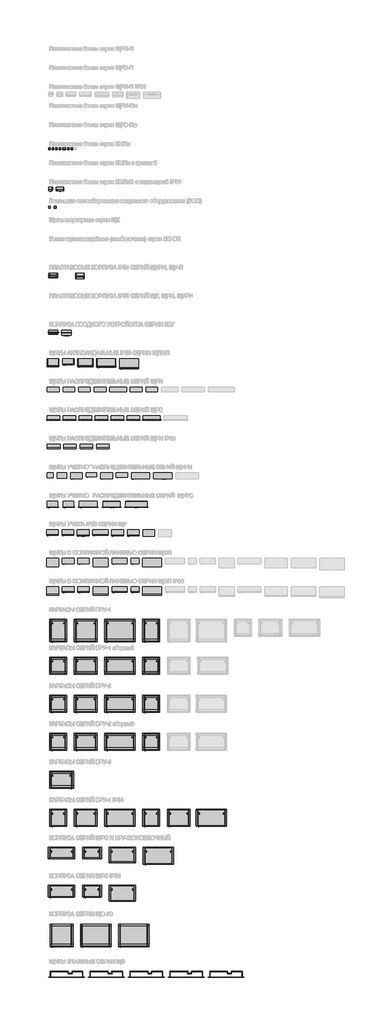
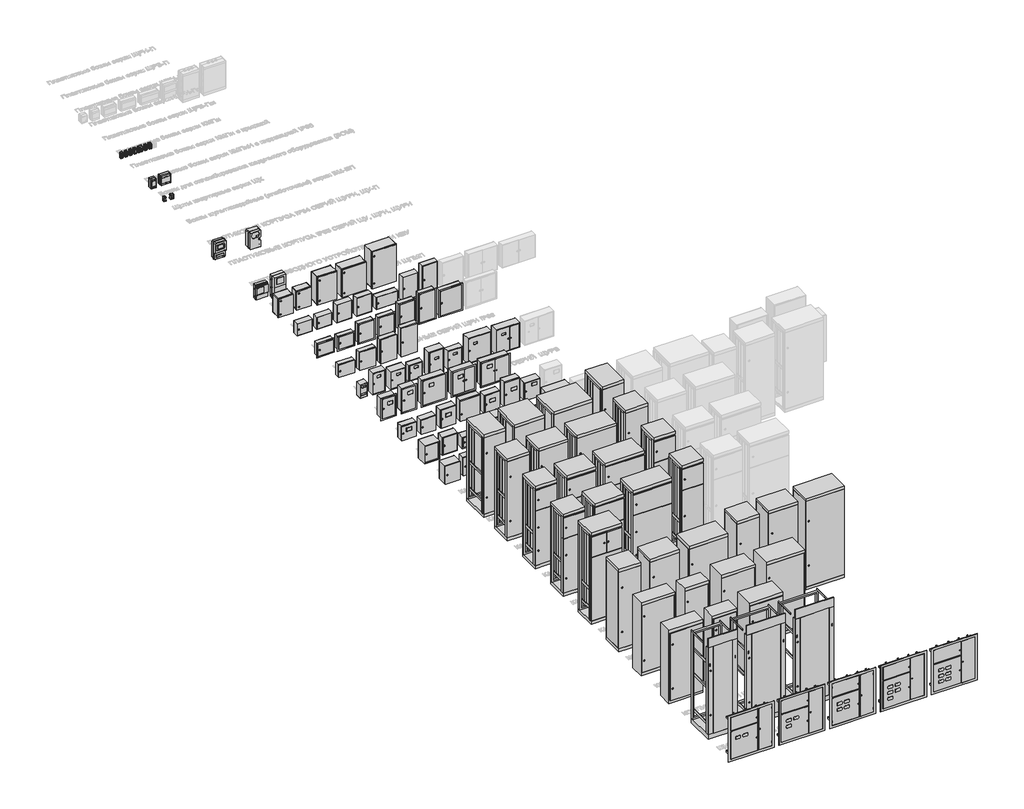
# One storey, part 1 of 25: 110 proxies.
"""IFC4 building model written with IfcOpenShell, lengths in millimetres."""

from ifc_helpers import new_model, si_unit, origin, place, context, project, spatial, transform, mapped, element, save
from components import electrical_equipment_f7069c38, electrical_equipment_20200724, electrical_equipment_cb070b25, electrical_equipment_a20aefed, electrical_equipment_1ee536cc, electrical_equipment_fd75258f, electrical_equipment_c49b061d, electrical_equipment_97246e37, electrical_equipment_1d521569, electrical_equipment_03d4b405, electrical_equipment_461fbd14, electrical_equipment_4e84e6ac, electrical_equipment_68182195, electrical_equipment_5be1c734, electrical_equipment_7cf6aeab, electrical_equipment_b1d8481f, electrical_equipment_1adb9329, electrical_equipment_51e5f88a, electrical_equipment_d572dc0e, electrical_equipment_7104ac90, electrical_equipment_e4f36392, electrical_equipment_c102921a, electrical_equipment_0156054a, electrical_equipment_1d639574, electrical_equipment_36c89b5d, electrical_equipment_8c9b66d6, electrical_equipment_7c259b81, electrical_equipment_dd45281c, electrical_equipment_cd438415, electrical_equipment_de6c3006, electrical_equipment_0470d7b7, electrical_equipment_4e9208c9, electrical_equipment_1f3abc2e, electrical_equipment_2e995482, electrical_equipment_75fcd377, electrical_equipment_2483adff, electrical_equipment_641f8d47, electrical_equipment_ec702200, electrical_equipment_acb14810, electrical_equipment_2a2de03e, electrical_equipment_830343ff, electrical_equipment_801ff232, electrical_equipment_8861a685, electrical_equipment_a2a301cd, electrical_equipment_84546ef7, electrical_equipment_aaa1e754, electrical_equipment_3a378906, electrical_equipment_e5c25cb4, electrical_equipment_f46c113c, electrical_equipment_338b28ef, electrical_equipment_934612fc, electrical_equipment_269ade26, electrical_equipment_854c8e54, electrical_equipment_25a24726, electrical_equipment_90699a79, electrical_equipment_55ce43f8, electrical_equipment_640d19c4, electrical_equipment_c7455dac, electrical_equipment_a689f8a6, electrical_equipment_2eaa364d, electrical_equipment_22b4aa98, electrical_equipment_89490b8c, electrical_equipment_c2dde389, electrical_equipment_6d69b4e2, electrical_equipment_0d639fd2, electrical_equipment_03c4f287, electrical_equipment_3c1566b2, electrical_equipment_bb6dac78, electrical_equipment_422eb44d, electrical_equipment_bb3ff358, electrical_equipment_5da544b6, electrical_equipment_15b1d89e, electrical_equipment_5376e35c, electrical_equipment_b12d2e99, electrical_equipment_6fd5ae59, electrical_equipment_fb14bdcf, electrical_equipment_00db5d83, electrical_equipment_27e2d6df, electrical_equipment_e2eaab87, electrical_equipment_1525a376, electrical_equipment_cdf7333c, electrical_equipment_f5411164, electrical_equipment_028161d4, electrical_equipment_5a98589f, electrical_equipment_d42505dd, electrical_equipment_290de99c, electrical_equipment_733eea28, electrical_equipment_8d153149, electrical_equipment_012ccbdc, electrical_equipment_6cbb61f2, electrical_equipment_671bf40c, electrical_equipment_eb1f5e51, electrical_equipment_db30c34b, electrical_equipment_5cb46348, electrical_equipment_fc4410ef, electrical_equipment_bd5a1a53, electrical_equipment_93f16f87

model = new_model("IFC4")

# Units and contexts
model_context = context("Model", 3, world=origin())
ifc_project = project(units=[si_unit("LENGTHUNIT", "METRE", prefix="MILLI")], contexts=[model_context])

# Site, building, storey
site = spatial("IfcSite", under=ifc_project)
building = spatial("IfcBuilding", under=site)
storey = spatial("IfcBuildingStorey", under=building, Name="Этаж 01", Elevation=0.0)

# Proxies
placement = place(None, origin())
electrical_equipment_shape = electrical_equipment_f7069c38(model_context)
element("IfcBuildingElementProxy", 1, Name="ВРУ-1 : ВРУ-1_1800х450х600", ObjectType="ВРУ-1 : ВРУ-1_1800х450х600", at=placement, inside=storey, context=model_context, shape_type="MappedRepresentation", body=[
    mapped(electrical_equipment_shape, transform((-18813.1211007, 3586.235284, 0.0), x_axis=(-1.0, 0.0, 0.0), y_axis=(0.0, -1.0, 0.0), z_axis=(0.0, 0.0, 1.0))),
])
electrical_equipment_2_shape = electrical_equipment_20200724(model_context)
element("IfcBuildingElementProxy", 2, Name="ВРУ-1 : ВРУ-1_2000х450х600", ObjectType="ВРУ-1 : ВРУ-1_2000х450х600", at=placement, inside=storey, context=model_context, shape_type="MappedRepresentation", body=[
    mapped(electrical_equipment_2_shape, transform((-16363.100758, 3586.235284, 0.0), x_axis=(-1.0, 0.0, 0.0), y_axis=(0.0, -1.0, 0.0), z_axis=(0.0, 0.0, 1.0))),
])
electrical_equipment_3_shape = electrical_equipment_cb070b25(model_context)
element("IfcBuildingElementProxy", 3, Name="ВРУ-1 : ВРУ-1_1800х600х600", ObjectType="ВРУ-1 : ВРУ-1_1800х600х600", at=placement, inside=storey, context=model_context, shape_type="MappedRepresentation", body=[
    mapped(electrical_equipment_3_shape, transform((-18088.1143198, 3586.235284, 0.0), x_axis=(-1.0, 0.0, 0.0), y_axis=(0.0, -1.0, 0.0), z_axis=(0.0, 0.0, 1.0))),
])
electrical_equipment_4_shape = electrical_equipment_a20aefed(model_context)
element("IfcBuildingElementProxy", 4, Name="ВРУ-1 : ВРУ-1_1800х800х600", ObjectType="ВРУ-1 : ВРУ-1_1800х800х600", at=placement, inside=storey, context=model_context, shape_type="MappedRepresentation", body=[
    mapped(electrical_equipment_4_shape, transform((-17188.1075389, 3586.235284, 0.0), x_axis=(-1.0, 0.0, 0.0), y_axis=(0.0, -1.0, 0.0), z_axis=(0.0, 0.0, 1.0))),
])
electrical_equipment_5_shape = electrical_equipment_1ee536cc(model_context)
element("IfcBuildingElementProxy", 5, Name="ВРУ-1_IP54 : ВРУ-1_1800х450х450", ObjectType="ВРУ-1_IP54 : ВРУ-1_1800х450х450", at=placement, inside=storey, context=model_context, shape_type="MappedRepresentation", body=[
    mapped(electrical_equipment_5_shape, transform((-18813.1211007, -1413.764716, 0.0), x_axis=(-1.0, 0.0, 0.0), y_axis=(0.0, -1.0, 0.0), z_axis=(0.0, 0.0, 1.0))),
])
electrical_equipment_6_shape = electrical_equipment_fd75258f(model_context)
element("IfcBuildingElementProxy", 6, Name="ВРУ-1_IP54 : ВРУ-1_1800х600х450", ObjectType="ВРУ-1_IP54 : ВРУ-1_1800х600х450", at=placement, inside=storey, context=model_context, shape_type="MappedRepresentation", body=[
    mapped(electrical_equipment_6_shape, transform((-18088.1143198, -1413.764716, 0.0), x_axis=(-1.0, 0.0, 0.0), y_axis=(0.0, -1.0, 0.0), z_axis=(0.0, 0.0, 1.0))),
])
electrical_equipment_7_shape = electrical_equipment_c49b061d(model_context)
element("IfcBuildingElementProxy", 7, Name="ВРУ-1_IP54 : ВРУ-1_1800х800х450", ObjectType="ВРУ-1_IP54 : ВРУ-1_1800х800х450", at=placement, inside=storey, context=model_context, shape_type="MappedRepresentation", body=[
    mapped(electrical_equipment_7_shape, transform((-17188.1075389, -1413.764716, 0.0), x_axis=(-1.0, 0.0, 0.0), y_axis=(0.0, -1.0, 0.0), z_axis=(0.0, 0.0, 1.0))),
])
electrical_equipment_8_shape = electrical_equipment_97246e37(model_context)
element("IfcBuildingElementProxy", 8, Name="ВРУ-1_IP54 : ВРУ-1_2000х450х450", ObjectType="ВРУ-1_IP54 : ВРУ-1_2000х450х450", at=placement, inside=storey, context=model_context, shape_type="MappedRepresentation", body=[
    mapped(electrical_equipment_8_shape, transform((-16363.100758, -1413.764716, 0.0), x_axis=(-1.0, 0.0, 0.0), y_axis=(0.0, -1.0, 0.0), z_axis=(0.0, 0.0, 1.0))),
])
electrical_equipment_9_shape = electrical_equipment_1d521569(model_context)
element("IfcBuildingElementProxy", 9, Name="ВРУ-1_IP54 : ВРУ-1_2000х600х450", ObjectType="ВРУ-1_IP54 : ВРУ-1_2000х600х450", at=placement, inside=storey, context=model_context, shape_type="MappedRepresentation", body=[
    mapped(electrical_equipment_9_shape, transform((-15638.0939771, -1413.764716, 0.0), x_axis=(-1.0, 0.0, 0.0), y_axis=(0.0, -1.0, 0.0), z_axis=(0.0, 0.0, 1.0))),
])
electrical_equipment_10_shape = electrical_equipment_03d4b405(model_context)
element("IfcBuildingElementProxy", 10, Name="ВРУ-1_IP54 : ВРУ-1_2000х800х450", ObjectType="ВРУ-1_IP54 : ВРУ-1_2000х800х450", at=placement, inside=storey, context=model_context, shape_type="MappedRepresentation", body=[
    mapped(electrical_equipment_10_shape, transform((-14777.2854233, -1413.764716, 0.0), x_axis=(-1.0, 0.0, 0.0), y_axis=(0.0, -1.0, 0.0), z_axis=(0.0, 0.0, 1.0))),
])
electrical_equipment_11_shape = electrical_equipment_461fbd14(model_context)
element("IfcBuildingElementProxy", 11, Name="ВРУ-1_сборный : ВРУ-1_1800х450х450", ObjectType="ВРУ-1_сборный : ВРУ-1_1800х450х450", at=placement, inside=storey, context=model_context, shape_type="MappedRepresentation", body=[
    mapped(electrical_equipment_11_shape, transform((-18813.1211007, 2586.235284, 0.0), x_axis=(-1.0, 0.0, 0.0), y_axis=(0.0, -1.0, 0.0), z_axis=(0.0, 0.0, 1.0))),
])
electrical_equipment_12_shape = electrical_equipment_4e84e6ac(model_context)
element("IfcBuildingElementProxy", 12, Name="ВРУ-1_сборный : ВРУ-1_1800х600х450", ObjectType="ВРУ-1_сборный : ВРУ-1_1800х600х450", at=placement, inside=storey, context=model_context, shape_type="MappedRepresentation", body=[
    mapped(electrical_equipment_12_shape, transform((-18088.1143198, 2586.235284, 0.0), x_axis=(-1.0, 0.0, 0.0), y_axis=(0.0, -1.0, 0.0), z_axis=(0.0, 0.0, 1.0))),
])
electrical_equipment_13_shape = electrical_equipment_68182195(model_context)
element("IfcBuildingElementProxy", 13, Name="ВРУ-1_сборный : ВРУ-1_2000х450х450", ObjectType="ВРУ-1_сборный : ВРУ-1_2000х450х450", at=placement, inside=storey, context=model_context, shape_type="MappedRepresentation", body=[
    mapped(electrical_equipment_13_shape, transform((-16363.100758, 2586.235284, 0.0), x_axis=(-1.0, 0.0, 0.0), y_axis=(0.0, -1.0, 0.0), z_axis=(0.0, 0.0, 1.0))),
])
electrical_equipment_14_shape = electrical_equipment_5be1c734(model_context)
element("IfcBuildingElementProxy", 14, Name="ВРУ-1_сборный : ВРУ-1_1800х800х450", ObjectType="ВРУ-1_сборный : ВРУ-1_1800х800х450", at=placement, inside=storey, context=model_context, shape_type="MappedRepresentation", body=[
    mapped(electrical_equipment_14_shape, transform((-17188.1075389, 2586.235284, 0.0), x_axis=(-1.0, 0.0, 0.0), y_axis=(0.0, -1.0, 0.0), z_axis=(0.0, 0.0, 1.0))),
])
electrical_equipment_15_shape = electrical_equipment_7cf6aeab(model_context)
element("IfcBuildingElementProxy", 15, Name="ВРУ-2 : ВРУ-2_1800х450х450", ObjectType="ВРУ-2 : ВРУ-2_1800х450х450", at=placement, inside=storey, context=model_context, shape_type="MappedRepresentation", body=[
    mapped(electrical_equipment_15_shape, transform((-18813.1211007, 1586.235284, 0.0), x_axis=(-1.0, 0.0, 0.0), y_axis=(0.0, -1.0, 0.0), z_axis=(0.0, 0.0, 1.0))),
])
electrical_equipment_16_shape = electrical_equipment_b1d8481f(model_context)
element("IfcBuildingElementProxy", 16, Name="ВРУ-2 : ВРУ-2_1800х600х450", ObjectType="ВРУ-2 : ВРУ-2_1800х600х450", at=placement, inside=storey, context=model_context, shape_type="MappedRepresentation", body=[
    mapped(electrical_equipment_16_shape, transform((-18088.1143198, 1586.251492, 0.0), x_axis=(-1.0, 0.0, 0.0), y_axis=(0.0, -1.0, 0.0), z_axis=(0.0, 0.0, 1.0))),
])
electrical_equipment_17_shape = electrical_equipment_1adb9329(model_context)
element("IfcBuildingElementProxy", 17, Name="ВРУ-2 : ВРУ-2_2000х450х450", ObjectType="ВРУ-2 : ВРУ-2_2000х450х450", at=placement, inside=storey, context=model_context, shape_type="MappedRepresentation", body=[
    mapped(electrical_equipment_17_shape, transform((-16363.100758, 1586.251492, 0.0), x_axis=(-1.0, 0.0, 0.0), y_axis=(0.0, -1.0, 0.0), z_axis=(0.0, 0.0, 1.0))),
])
electrical_equipment_18_shape = electrical_equipment_51e5f88a(model_context)
element("IfcBuildingElementProxy", 18, Name="ВРУ-2 : ВРУ-2_1800х800х450", ObjectType="ВРУ-2 : ВРУ-2_1800х800х450", at=placement, inside=storey, context=model_context, shape_type="MappedRepresentation", body=[
    mapped(electrical_equipment_18_shape, transform((-17188.1075389, 1586.251492, 0.0), x_axis=(-1.0, 0.0, 0.0), y_axis=(0.0, -1.0, 0.0), z_axis=(0.0, 0.0, 1.0))),
])
element("IfcBuildingElementProxy", 19, Name="ВРУ-2_сборный : ВРУ-2 сборный_1800х450х450", ObjectType="ВРУ-2_сборный : ВРУ-2 сборный_1800х450х450", at=placement, inside=storey, context=model_context, shape_type="MappedRepresentation", body=[
    mapped(electrical_equipment_15_shape, transform((-18813.1211007, 586.235284, 0.0), x_axis=(-1.0, 0.0, 0.0), y_axis=(0.0, -1.0, 0.0), z_axis=(0.0, 0.0, 1.0))),
])
element("IfcBuildingElementProxy", 20, Name="ВРУ-2_сборный : ВРУ-2 сборный_1800х600х450", ObjectType="ВРУ-2_сборный : ВРУ-2 сборный_1800х600х450", at=placement, inside=storey, context=model_context, shape_type="MappedRepresentation", body=[
    mapped(electrical_equipment_16_shape, transform((-18088.1143198, 586.235284, 0.0), x_axis=(-1.0, 0.0, 0.0), y_axis=(0.0, -1.0, 0.0), z_axis=(0.0, 0.0, 1.0))),
])
element("IfcBuildingElementProxy", 21, Name="ВРУ-2_сборный : ВРУ-2 сборный_2000х450х450", ObjectType="ВРУ-2_сборный : ВРУ-2 сборный_2000х450х450", at=placement, inside=storey, context=model_context, shape_type="MappedRepresentation", body=[
    mapped(electrical_equipment_17_shape, transform((-16363.100758, 586.235284, 0.0), x_axis=(-1.0, 0.0, 0.0), y_axis=(0.0, -1.0, 0.0), z_axis=(0.0, 0.0, 1.0))),
])
element("IfcBuildingElementProxy", 22, Name="ВРУ-2_сборный : ВРУ-2 сборный_1800х800х450", ObjectType="ВРУ-2_сборный : ВРУ-2 сборный_1800х800х450", at=placement, inside=storey, context=model_context, shape_type="MappedRepresentation", body=[
    mapped(electrical_equipment_18_shape, transform((-17188.1075389, 586.235284, 0.0), x_axis=(-1.0, 0.0, 0.0), y_axis=(0.0, -1.0, 0.0), z_axis=(0.0, 0.0, 1.0))),
])
electrical_equipment_19_shape = electrical_equipment_d572dc0e(model_context)
element("IfcBuildingElementProxy", 23, Name="ВРУ-3 : ВРУ-3_2000х630х450", ObjectType="ВРУ-3 : ВРУ-3_2000х630х450", at=placement, inside=storey, context=model_context, shape_type="MappedRepresentation", body=[
    mapped(electrical_equipment_19_shape, transform((-18723.1211007, -413.764716, 0.0), x_axis=(-1.0, 0.0, 0.0), y_axis=(0.0, -1.0, 0.0), z_axis=(0.0, 0.0, 1.0))),
])
electrical_equipment_20_shape = electrical_equipment_7104ac90(model_context)
element("IfcBuildingElementProxy", 24, Name="БОМ-2_3 : БОМ 2/3", ObjectType="БОМ-2_3 : БОМ 2/3", at=placement, inside=storey, context=model_context, shape_type="MappedRepresentation", body=[
    mapped(electrical_equipment_20_shape, transform((-18892.6755004, 14436.235284, 0.0), x_axis=(-1.0, 0.0, 0.0), y_axis=(0.0, -1.0, 0.0), z_axis=(0.0, 0.0, 1.0))),
])
electrical_equipment_21_shape = electrical_equipment_e4f36392(model_context)
element("IfcBuildingElementProxy", 25, Name="БОМ-1_2 : БОМ 1/2", ObjectType="БОМ-1_2 : БОМ 1/2", at=placement, inside=storey, context=model_context, shape_type="MappedRepresentation", body=[
    mapped(electrical_equipment_21_shape, transform((-19042.6755004, 14436.235284, 0.0), x_axis=(-1.0, 0.0, 0.0), y_axis=(0.0, -1.0, 0.0), z_axis=(0.0, 0.0, 1.0))),
])
electrical_equipment_22_shape = electrical_equipment_c102921a(model_context)
element("IfcBuildingElementProxy", 26, Name="ЩМП : ЩМП-1-0_395х310х220", ObjectType="ЩМП : ЩМП-1-0_395х310х220", at=placement, inside=storey, context=model_context, shape_type="MappedRepresentation", body=[
    mapped(electrical_equipment_22_shape, transform((-18960.3755004, 5186.235284, 0.0), x_axis=(-1.0, 0.0, 0.0), y_axis=(0.0, -1.0, 0.0), z_axis=(0.0, 0.0, 1.0))),
])
electrical_equipment_23_shape = electrical_equipment_0156054a(model_context)
element("IfcBuildingElementProxy", 27, Name="ЩМП : ЩМП-1-1_395х310х150", ObjectType="ЩМП : ЩМП-1-1_395х310х150", at=placement, inside=storey, context=model_context, shape_type="MappedRepresentation", body=[
    mapped(electrical_equipment_23_shape, transform((-18550.3755004, 5186.235284, 0.0), x_axis=(-1.0, 0.0, 0.0), y_axis=(0.0, -1.0, 0.0), z_axis=(0.0, 0.0, 1.0))),
])
electrical_equipment_24_shape = electrical_equipment_1d639574(model_context)
element("IfcBuildingElementProxy", 28, Name="ЩМП : ЩМП-2.3.1-0_250х300х150", ObjectType="ЩМП : ЩМП-2.3.1-0_250х300х150", at=placement, inside=storey, context=model_context, shape_type="MappedRepresentation", body=[
    mapped(electrical_equipment_24_shape, transform((-18145.3755004, 5186.235284, 0.0), x_axis=(-1.0, 0.0, 0.0), y_axis=(0.0, -1.0, 0.0), z_axis=(0.0, 0.0, 1.0))),
])
electrical_equipment_25_shape = electrical_equipment_36c89b5d(model_context)
element("IfcBuildingElementProxy", 29, Name="ЩМП : ЩМП-2-0_500х400х220", ObjectType="ЩМП : ЩМП-2-0_500х400х220", at=placement, inside=storey, context=model_context, shape_type="MappedRepresentation", body=[
    mapped(electrical_equipment_25_shape, transform((-17695.3755004, 5186.235284, 0.0), x_axis=(-1.0, 0.0, 0.0), y_axis=(0.0, -1.0, 0.0), z_axis=(0.0, 0.0, 1.0))),
])
electrical_equipment_26_shape = electrical_equipment_8c9b66d6(model_context)
element("IfcBuildingElementProxy", 30, Name="ЩМП : ЩМП-2-1_500х400х150", ObjectType="ЩМП : ЩМП-2-1_500х400х150", at=placement, inside=storey, context=model_context, shape_type="MappedRepresentation", body=[
    mapped(electrical_equipment_26_shape, transform((-17195.3755004, 5186.235284, 0.0), x_axis=(-1.0, 0.0, 0.0), y_axis=(0.0, -1.0, 0.0), z_axis=(0.0, 0.0, 1.0))),
])
electrical_equipment_27_shape = electrical_equipment_7c259b81(model_context)
element("IfcBuildingElementProxy", 31, Name="ЩМП : ЩМП-3.2.1-0_300х210х150", ObjectType="ЩМП : ЩМП-3.2.1-0_300х210х150", at=placement, inside=storey, context=model_context, shape_type="MappedRepresentation", body=[
    mapped(electrical_equipment_27_shape, transform((-16790.3755004, 5186.235284, 0.0), x_axis=(-1.0, 0.0, 0.0), y_axis=(0.0, -1.0, 0.0), z_axis=(0.0, 0.0, 1.0))),
])
electrical_equipment_28_shape = electrical_equipment_dd45281c(model_context)
element("IfcBuildingElementProxy", 32, Name="ЩМП : ЩМП-3-0_650х500х220", ObjectType="ЩМП : ЩМП-3-0_650х500х220", at=placement, inside=storey, context=model_context, shape_type="MappedRepresentation", body=[
    mapped(electrical_equipment_28_shape, transform((-16335.3755004, 5186.235284, 0.0), x_axis=(-1.0, 0.0, 0.0), y_axis=(0.0, -1.0, 0.0), z_axis=(0.0, 0.0, 1.0))),
])
electrical_equipment_29_shape = electrical_equipment_cd438415(model_context)
element("IfcBuildingElementProxy", 33, Name="ЩМП_IP65 : ЩМП-1-0_395х310х220", ObjectType="ЩМП_IP65 : ЩМП-1-0_395х310х220", at=placement, inside=storey, context=model_context, shape_type="MappedRepresentation", body=[
    mapped(electrical_equipment_29_shape, transform((-18960.3755004, 4436.235284, 0.0), x_axis=(-1.0, 0.0, 0.0), y_axis=(0.0, -1.0, 0.0), z_axis=(0.0, 0.0, 1.0))),
])
electrical_equipment_30_shape = electrical_equipment_de6c3006(model_context)
element("IfcBuildingElementProxy", 34, Name="ЩМП_IP65 : ЩМП-1-1_395х310х150", ObjectType="ЩМП_IP65 : ЩМП-1-1_395х310х150", at=placement, inside=storey, context=model_context, shape_type="MappedRepresentation", body=[
    mapped(electrical_equipment_30_shape, transform((-18550.3755004, 4436.235284, 0.0), x_axis=(-1.0, 0.0, 0.0), y_axis=(0.0, -1.0, 0.0), z_axis=(0.0, 0.0, 1.0))),
])
electrical_equipment_31_shape = electrical_equipment_0470d7b7(model_context)
element("IfcBuildingElementProxy", 35, Name="ЩМП_IP65 : ЩМП-2.3.1-0_250х300х150", ObjectType="ЩМП_IP65 : ЩМП-2.3.1-0_250х300х150", at=placement, inside=storey, context=model_context, shape_type="MappedRepresentation", body=[
    mapped(electrical_equipment_31_shape, transform((-18145.3755004, 4436.235284, 0.0), x_axis=(-1.0, 0.0, 0.0), y_axis=(0.0, -1.0, 0.0), z_axis=(0.0, 0.0, 1.0))),
])
electrical_equipment_32_shape = electrical_equipment_4e9208c9(model_context)
element("IfcBuildingElementProxy", 36, Name="ЩМП_IP65 : ЩМП-2-0_500х400х220", ObjectType="ЩМП_IP65 : ЩМП-2-0_500х400х220", at=placement, inside=storey, context=model_context, shape_type="MappedRepresentation", body=[
    mapped(electrical_equipment_32_shape, transform((-17695.3755004, 4436.235284, 0.0), x_axis=(-1.0, 0.0, 0.0), y_axis=(0.0, -1.0, 0.0), z_axis=(0.0, 0.0, 1.0))),
])
electrical_equipment_33_shape = electrical_equipment_1f3abc2e(model_context)
element("IfcBuildingElementProxy", 37, Name="ЩМП_IP65 : ЩМП-2-1_500х400х150", ObjectType="ЩМП_IP65 : ЩМП-2-1_500х400х150", at=placement, inside=storey, context=model_context, shape_type="MappedRepresentation", body=[
    mapped(electrical_equipment_33_shape, transform((-17195.3755004, 4436.235284, 0.0), x_axis=(-1.0, 0.0, 0.0), y_axis=(0.0, -1.0, 0.0), z_axis=(0.0, 0.0, 1.0))),
])
electrical_equipment_34_shape = electrical_equipment_2e995482(model_context)
element("IfcBuildingElementProxy", 38, Name="ЩМП_IP65 : ЩМП-3.2.1-0_300х210х150", ObjectType="ЩМП_IP65 : ЩМП-3.2.1-0_300х210х150", at=placement, inside=storey, context=model_context, shape_type="MappedRepresentation", body=[
    mapped(electrical_equipment_34_shape, transform((-16790.3755004, 4436.235284, 0.0), x_axis=(-1.0, 0.0, 0.0), y_axis=(0.0, -1.0, 0.0), z_axis=(0.0, 0.0, 1.0))),
])
electrical_equipment_35_shape = electrical_equipment_75fcd377(model_context)
element("IfcBuildingElementProxy", 39, Name="ЩМП_IP65 : ЩМП-3-0_650х500х220", ObjectType="ЩМП_IP65 : ЩМП-3-0_650х500х220", at=placement, inside=storey, context=model_context, shape_type="MappedRepresentation", body=[
    mapped(electrical_equipment_35_shape, transform((-16335.3755004, 4436.235284, 0.0), x_axis=(-1.0, 0.0, 0.0), y_axis=(0.0, -1.0, 0.0), z_axis=(0.0, 0.0, 1.0))),
])
electrical_equipment_36_shape = electrical_equipment_2483adff(model_context)
element("IfcBuildingElementProxy", 40, Name="ЩО-70 : ЩО-70_2200х600х600", ObjectType="ЩО-70 : ЩО-70_2200х600х600", at=placement, inside=storey, context=model_context, shape_type="MappedRepresentation", body=[
    mapped(electrical_equipment_36_shape, transform((-18723.1211007, -4431.3615443, 0.0), x_axis=(-1.0, 0.0, 0.0), y_axis=(0.0, -1.0, 0.0), z_axis=(0.0, 0.0, 1.0))),
])
electrical_equipment_37_shape = electrical_equipment_641f8d47(model_context)
element("IfcBuildingElementProxy", 41, Name="ЩО-70 : ЩО-70_2200х800х600", ObjectType="ЩО-70 : ЩО-70_2200х800х600", at=placement, inside=storey, context=model_context, shape_type="MappedRepresentation", body=[
    mapped(electrical_equipment_37_shape, transform((-17823.1211007, -4431.3615443, 0.0), x_axis=(-1.0, 0.0, 0.0), y_axis=(0.0, -1.0, 0.0), z_axis=(0.0, 0.0, 1.0))),
])
element("IfcBuildingElementProxy", 42, Name="ЩО-70 : ЩО-70_2200х800х600 в обрешетке", ObjectType="ЩО-70 : ЩО-70_2200х800х600 в обрешетке", at=placement, inside=storey, context=model_context, shape_type="MappedRepresentation", body=[
    mapped(electrical_equipment_37_shape, transform((-16823.1211007, -4431.3615443, 0.0), x_axis=(-1.0, 0.0, 0.0), y_axis=(0.0, -1.0, 0.0), z_axis=(0.0, 0.0, 1.0))),
])
electrical_equipment_38_shape = electrical_equipment_ec702200(model_context)
element("IfcBuildingElementProxy", 43, Name="ЩПМП_IP55 : ЩПМП-1-1", ObjectType="ЩПМП_IP55 : ЩПМП-1-1", at=placement, inside=storey, context=model_context, shape_type="MappedRepresentation", body=[
    mapped(electrical_equipment_38_shape, transform((-18545.3755004, 10436.235284, 0.0), x_axis=(-1.0, 0.0, 0.0), y_axis=(0.0, -1.0, 0.0), z_axis=(0.0, 0.0, 1.0))),
])
electrical_equipment_39_shape = electrical_equipment_acb14810(model_context)
element("IfcBuildingElementProxy", 44, Name="ЩПМП_IP55 : ЩПМП-1-0", ObjectType="ЩПМП_IP55 : ЩПМП-1-0", at=placement, inside=storey, context=model_context, shape_type="MappedRepresentation", body=[
    mapped(electrical_equipment_39_shape, transform((-18945.3755004, 10436.235284, 0.0), x_axis=(-1.0, 0.0, 0.0), y_axis=(0.0, -1.0, 0.0), z_axis=(0.0, 0.0, 1.0))),
])
electrical_equipment_40_shape = electrical_equipment_2a2de03e(model_context)
element("IfcBuildingElementProxy", 45, Name="ЩПМП_IP55 : ЩПМП-2-0", ObjectType="ЩПМП_IP55 : ЩПМП-2-0", at=placement, inside=storey, context=model_context, shape_type="MappedRepresentation", body=[
    mapped(electrical_equipment_40_shape, transform((-18095.3755004, 10436.235284, 0.0), x_axis=(-1.0, 0.0, 0.0), y_axis=(0.0, -1.0, 0.0), z_axis=(0.0, 0.0, 1.0))),
])
electrical_equipment_41_shape = electrical_equipment_830343ff(model_context)
element("IfcBuildingElementProxy", 46, Name="ЩПМП_IP55 : ЩПМП-3-0", ObjectType="ЩПМП_IP55 : ЩПМП-3-0", at=placement, inside=storey, context=model_context, shape_type="MappedRepresentation", body=[
    mapped(electrical_equipment_41_shape, transform((-17545.3755004, 10436.235284, 0.0), x_axis=(-1.0, 0.0, 0.0), y_axis=(0.0, -1.0, 0.0), z_axis=(0.0, 0.0, 1.0))),
])
electrical_equipment_42_shape = electrical_equipment_801ff232(model_context)
element("IfcBuildingElementProxy", 47, Name="ЩПМП_IP55 : ЩПМП-4-0", ObjectType="ЩПМП_IP55 : ЩПМП-4-0", at=placement, inside=storey, context=model_context, shape_type="MappedRepresentation", body=[
    mapped(electrical_equipment_42_shape, transform((-16945.3755004, 10436.235284, 0.0), x_axis=(-1.0, 0.0, 0.0), y_axis=(0.0, -1.0, 0.0), z_axis=(0.0, 0.0, 1.0))),
])
electrical_equipment_43_shape = electrical_equipment_8861a685(model_context)
element("IfcBuildingElementProxy", 48, Name="ЩРВ_9-12 : ЩРВ-09", ObjectType="ЩРВ_9-12 : ЩРВ-09", at=placement, inside=storey, context=model_context, shape_type="MappedRepresentation", body=[
    mapped(electrical_equipment_43_shape, transform((-18935.3755004, 8936.235284, 0.0), x_axis=(-1.0, 0.0, 0.0), y_axis=(0.0, -1.0, 0.0), z_axis=(0.0, 0.0, 1.0))),
])
element("IfcBuildingElementProxy", 49, Name="ЩРВ_9-12 : ЩРВ-12", ObjectType="ЩРВ_9-12 : ЩРВ-12", at=placement, inside=storey, context=model_context, shape_type="MappedRepresentation", body=[
    mapped(electrical_equipment_43_shape, transform((-18515.3755004, 8936.235284, 0.0), x_axis=(-1.0, 0.0, 0.0), y_axis=(0.0, -1.0, 0.0), z_axis=(0.0, 0.0, 1.0))),
])
electrical_equipment_44_shape = electrical_equipment_a2a301cd(model_context)
element("IfcBuildingElementProxy", 50, Name="ЩРВ_18-24 : ЩРВ-18", ObjectType="ЩРВ_18-24 : ЩРВ-18", at=placement, inside=storey, context=model_context, shape_type="MappedRepresentation", body=[
    mapped(electrical_equipment_44_shape, transform((-18095.3755004, 8936.235284, 0.0), x_axis=(-1.0, 0.0, 0.0), y_axis=(0.0, -1.0, 0.0), z_axis=(0.0, 0.0, 1.0))),
])
element("IfcBuildingElementProxy", 51, Name="ЩРВ_18-24 : ЩРВ-24", ObjectType="ЩРВ_18-24 : ЩРВ-24", at=placement, inside=storey, context=model_context, shape_type="MappedRepresentation", body=[
    mapped(electrical_equipment_44_shape, transform((-17675.3755004, 8936.235284, 0.0), x_axis=(-1.0, 0.0, 0.0), y_axis=(0.0, -1.0, 0.0), z_axis=(0.0, 0.0, 1.0))),
])
electrical_equipment_45_shape = electrical_equipment_84546ef7(model_context)
element("IfcBuildingElementProxy", 52, Name="ЩРВ_36 : ЩРВ-36", ObjectType="ЩРВ_36 : ЩРВ-36", at=placement, inside=storey, context=model_context, shape_type="MappedRepresentation", body=[
    mapped(electrical_equipment_45_shape, transform((-17255.3755004, 8936.235284, 0.0), x_axis=(-1.0, 0.0, 0.0), y_axis=(0.0, -1.0, 0.0), z_axis=(0.0, 0.0, 1.0))),
])
electrical_equipment_46_shape = electrical_equipment_aaa1e754(model_context)
element("IfcBuildingElementProxy", 53, Name="ЩРВ_48 : ЩРВ-48", ObjectType="ЩРВ_48 : ЩРВ-48", at=placement, inside=storey, context=model_context, shape_type="MappedRepresentation", body=[
    mapped(electrical_equipment_46_shape, transform((-16835.3755004, 8936.235284, 0.0), x_axis=(-1.0, 0.0, 0.0), y_axis=(0.0, -1.0, 0.0), z_axis=(0.0, 0.0, 1.0))),
])
electrical_equipment_47_shape = electrical_equipment_3a378906(model_context)
element("IfcBuildingElementProxy", 54, Name="ЩРВ_54 : ЩРВ-54", ObjectType="ЩРВ_54 : ЩРВ-54", at=placement, inside=storey, context=model_context, shape_type="MappedRepresentation", body=[
    mapped(electrical_equipment_47_shape, transform((-16350.3755004, 8936.235284, 0.0), x_axis=(-1.0, 0.0, 0.0), y_axis=(0.0, -1.0, 0.0), z_axis=(0.0, 0.0, 1.0))),
])
electrical_equipment_48_shape = electrical_equipment_e5c25cb4(model_context)
element("IfcBuildingElementProxy", 55, Name="КМПнИ-8 : КМПнИ-8", ObjectType="КМПнИ-8 : КМПнИ-8", at=placement, inside=storey, context=model_context, shape_type="MappedRepresentation", body=[
    mapped(electrical_equipment_48_shape, transform((-18762.6755004, 14936.235284, 0.0), x_axis=(-1.0, 0.0, 0.0), y_axis=(0.0, -1.0, 0.0), z_axis=(0.0, 0.0, 1.0))),
])
electrical_equipment_49_shape = electrical_equipment_f46c113c(model_context)
element("IfcBuildingElementProxy", 56, Name="КМПнИ-4 : КМПнИ-4", ObjectType="КМПнИ-4 : КМПнИ-4", at=placement, inside=storey, context=model_context, shape_type="MappedRepresentation", body=[
    mapped(electrical_equipment_49_shape, transform((-19012.6755004, 14936.235284, 0.0), x_axis=(-1.0, 0.0, 0.0), y_axis=(0.0, -1.0, 0.0), z_axis=(0.0, 0.0, 1.0))),
])
electrical_equipment_50_shape = electrical_equipment_338b28ef(model_context)
element("IfcBuildingElementProxy", 57, Name="КМПн-1_4 : КМПн-1/4", ObjectType="КМПн-1_4 : КМПн-1/4", at=placement, inside=storey, context=model_context, shape_type="MappedRepresentation", body=[
    mapped(electrical_equipment_50_shape, transform((-18656.8088126, 15979.3852498, 0.0), x_axis=(-1.0, 0.0, 0.0), y_axis=(0.0, -1.0, 0.0), z_axis=(0.0, 0.0, 1.0))),
])
electrical_equipment_51_shape = electrical_equipment_934612fc(model_context)
element("IfcBuildingElementProxy", 58, Name="КМПн-1_4 : КМПн-1/4 инд.штрихкод_ЭКО бук/венге", ObjectType="КМПн-1_4 : КМПн-1/4 инд.штрихкод_ЭКО бук/венге", at=placement, inside=storey, context=model_context, shape_type="MappedRepresentation", body=[
    mapped(electrical_equipment_51_shape, transform((-18547.8088126, 15979.3852498, 0.0), x_axis=(-1.0, 0.0, 0.0), y_axis=(0.0, -1.0, 0.0), z_axis=(0.0, 0.0, 1.0))),
])
element("IfcBuildingElementProxy", 59, Name="КМПн-1_4 : КМПн-1/4 инд.штрихкод_ЭКО сосна", ObjectType="КМПн-1_4 : КМПн-1/4 инд.штрихкод_ЭКО сосна", at=placement, inside=storey, context=model_context, shape_type="MappedRepresentation", body=[
    mapped(electrical_equipment_51_shape, transform((-18455.8088126, 15979.3852498, 0.0), x_axis=(-1.0, 0.0, 0.0), y_axis=(0.0, -1.0, 0.0), z_axis=(0.0, 0.0, 1.0))),
])
electrical_equipment_52_shape = electrical_equipment_269ade26(model_context)
element("IfcBuildingElementProxy", 60, Name="КМПн-1_2 : КМПн-1/2", ObjectType="КМПн-1_2 : КМПн-1/2", at=placement, inside=storey, context=model_context, shape_type="MappedRepresentation", body=[
    mapped(electrical_equipment_52_shape, transform((-19041.8088126, 15979.3852498, 0.0), x_axis=(-1.0, 0.0, 0.0), y_axis=(0.0, -1.0, 0.0), z_axis=(0.0, 0.0, 1.0))),
])
element("IfcBuildingElementProxy", 61, Name="КМПн-1_2 : КМПн-1/2 инд.штрихкод_ЭКО бук/венге", ObjectType="КМПн-1_2 : КМПн-1/2 инд.штрихкод_ЭКО бук/венге", at=placement, inside=storey, context=model_context, shape_type="MappedRepresentation", body=[
    mapped(electrical_equipment_52_shape, transform((-18949.8088126, 15979.3852498, 0.0), x_axis=(-1.0, 0.0, 0.0), y_axis=(0.0, -1.0, 0.0), z_axis=(0.0, 0.0, 1.0))),
])
element("IfcBuildingElementProxy", 62, Name="КМПн-1_2 : КМПн-1/2 инд.штрихкод_белый", ObjectType="КМПн-1_2 : КМПн-1/2 инд.штрихкод_белый", at=placement, inside=storey, context=model_context, shape_type="MappedRepresentation", body=[
    mapped(electrical_equipment_52_shape, transform((-18765.8088126, 15979.3852498, 0.0), x_axis=(-1.0, 0.0, 0.0), y_axis=(0.0, -1.0, 0.0), z_axis=(0.0, 0.0, 1.0))),
])
element("IfcBuildingElementProxy", 63, Name="КМПн-1_2 : КМПн-1/2 инд.штрихкод_ЭКО сосна", ObjectType="КМПн-1_2 : КМПн-1/2 инд.штрихкод_ЭКО сосна", at=placement, inside=storey, context=model_context, shape_type="MappedRepresentation", body=[
    mapped(electrical_equipment_52_shape, transform((-18857.8088126, 15979.3852498, 0.0), x_axis=(-1.0, 0.0, 0.0), y_axis=(0.0, -1.0, 0.0), z_axis=(0.0, 0.0, 1.0))),
])
electrical_equipment_53_shape = electrical_equipment_854c8e54(model_context)
element("IfcBuildingElementProxy", 64, Name="ЩЭ : ЩЭ_2 квартиры", ObjectType="ЩЭ : ЩЭ_2 квартиры", at=placement, inside=storey, context=model_context, shape_type="MappedRepresentation", body=[
    mapped(electrical_equipment_53_shape, transform((-18592.4303405, -5823.9882636, 0.0), x_axis=(-1.0, 0.0, 0.0), y_axis=(0.0, -1.0, 0.0), z_axis=(0.0, 0.0, 1.0))),
])
electrical_equipment_54_shape = electrical_equipment_25a24726(model_context)
element("IfcBuildingElementProxy", 65, Name="ЩЭ : ЩЭ_3 квартиры", ObjectType="ЩЭ : ЩЭ_3 квартиры", at=placement, inside=storey, context=model_context, shape_type="MappedRepresentation", body=[
    mapped(electrical_equipment_54_shape, transform((-17542.4303405, -5823.9882636, 0.0), x_axis=(-1.0, 0.0, 0.0), y_axis=(0.0, -1.0, 0.0), z_axis=(0.0, 0.0, 1.0))),
])
electrical_equipment_55_shape = electrical_equipment_90699a79(model_context)
element("IfcBuildingElementProxy", 66, Name="ЩЭ : ЩЭ_4 квартиры", ObjectType="ЩЭ : ЩЭ_4 квартиры", at=placement, inside=storey, context=model_context, shape_type="MappedRepresentation", body=[
    mapped(electrical_equipment_55_shape, transform((-16492.4303405, -5823.9882636, 0.0), x_axis=(-1.0, 0.0, 0.0), y_axis=(0.0, -1.0, 0.0), z_axis=(0.0, 0.0, 1.0))),
])
electrical_equipment_56_shape = electrical_equipment_55ce43f8(model_context)
element("IfcBuildingElementProxy", 67, Name="ЩЭ : ЩЭ_5 квартир", ObjectType="ЩЭ : ЩЭ_5 квартир", at=placement, inside=storey, context=model_context, shape_type="MappedRepresentation", body=[
    mapped(electrical_equipment_56_shape, transform((-15442.4303405, -5823.9882636, 0.0), x_axis=(-1.0, 0.0, 0.0), y_axis=(0.0, -1.0, 0.0), z_axis=(0.0, 0.0, 1.0))),
])
electrical_equipment_57_shape = electrical_equipment_640d19c4(model_context)
element("IfcBuildingElementProxy", 68, Name="ЩЭ : ЩЭ_6 квартир", ObjectType="ЩЭ : ЩЭ_6 квартир", at=placement, inside=storey, context=model_context, shape_type="MappedRepresentation", body=[
    mapped(electrical_equipment_57_shape, transform((-14392.4303405, -5823.9882636, 0.0), x_axis=(-1.0, 0.0, 0.0), y_axis=(0.0, -1.0, 0.0), z_axis=(0.0, 0.0, 1.0))),
])
electrical_equipment_58_shape = electrical_equipment_c7455dac(model_context)
element("IfcBuildingElementProxy", 69, Name="ЩРН-12_IP66 : ЩРН-12_IP66", ObjectType="ЩРН-12_IP66 : ЩРН-12_IP66", at=placement, inside=storey, context=model_context, shape_type="MappedRepresentation", body=[
    mapped(electrical_equipment_58_shape, transform((-18930.3788909, 8186.235284, 0.0), x_axis=(-1.0, 0.0, 0.0), y_axis=(0.0, -1.0, 0.0), z_axis=(0.0, 0.0, 1.0))),
])
electrical_equipment_59_shape = electrical_equipment_a689f8a6(model_context)
element("IfcBuildingElementProxy", 70, Name="ЩРН-24_IP66 : ЩРН-24_IP66", ObjectType="ЩРН-24_IP66 : ЩРН-24_IP66", at=placement, inside=storey, context=model_context, shape_type="MappedRepresentation", body=[
    mapped(electrical_equipment_59_shape, transform((-18500.3788909, 8186.235284, 0.0), x_axis=(-1.0, 0.0, 0.0), y_axis=(0.0, -1.0, 0.0), z_axis=(0.0, 0.0, 1.0))),
])
electrical_equipment_60_shape = electrical_equipment_2eaa364d(model_context)
element("IfcBuildingElementProxy", 71, Name="ЩРН-36_IP66 : ЩРН-36_IP66", ObjectType="ЩРН-36_IP66 : ЩРН-36_IP66", at=placement, inside=storey, context=model_context, shape_type="MappedRepresentation", body=[
    mapped(electrical_equipment_60_shape, transform((-18070.3788909, 8186.235284, 0.0), x_axis=(-1.0, 0.0, 0.0), y_axis=(0.0, -1.0, 0.0), z_axis=(0.0, 0.0, 1.0))),
])
electrical_equipment_61_shape = electrical_equipment_22b4aa98(model_context)
element("IfcBuildingElementProxy", 72, Name="ЩРН-48_IP66 : ЩРН-48_IP66", ObjectType="ЩРН-48_IP66 : ЩРН-48_IP66", at=placement, inside=storey, context=model_context, shape_type="MappedRepresentation", body=[
    mapped(electrical_equipment_61_shape, transform((-17640.3788909, 8186.235284, 0.0), x_axis=(-1.0, 0.0, 0.0), y_axis=(0.0, -1.0, 0.0), z_axis=(0.0, 0.0, 1.0))),
])
electrical_equipment_62_shape = electrical_equipment_89490b8c(model_context)
element("IfcBuildingElementProxy", 73, Name="ШРС : ШРС-1_1600х700х300", ObjectType="ШРС : ШРС-1_1600х700х300", at=placement, inside=storey, context=model_context, shape_type="MappedRepresentation", body=[
    mapped(electrical_equipment_62_shape, transform((-18723.1211007, -2413.764716, 0.0), x_axis=(-1.0, 0.0, 0.0), y_axis=(0.0, -1.0, 0.0), z_axis=(0.0, 0.0, 1.0))),
])
electrical_equipment_63_shape = electrical_equipment_c2dde389(model_context)
element("IfcBuildingElementProxy", 74, Name="ШРС : ШРС-2_1600х500х300", ObjectType="ШРС : ШРС-2_1600х500х300", at=placement, inside=storey, context=model_context, shape_type="MappedRepresentation", body=[
    mapped(electrical_equipment_63_shape, transform((-17923.1211007, -2413.764716, 0.0), x_axis=(-1.0, 0.0, 0.0), y_axis=(0.0, -1.0, 0.0), z_axis=(0.0, 0.0, 1.0))),
])
electrical_equipment_64_shape = electrical_equipment_6d69b4e2(model_context)
element("IfcBuildingElementProxy", 75, Name="ШРС : ШРС-3_1700х700х400", ObjectType="ШРС : ШРС-3_1700х700х400", at=placement, inside=storey, context=model_context, shape_type="MappedRepresentation", body=[
    mapped(electrical_equipment_64_shape, transform((-17123.1211007, -2413.764716, 0.0), x_axis=(-1.0, 0.0, 0.0), y_axis=(0.0, -1.0, 0.0), z_axis=(0.0, 0.0, 1.0))),
])
electrical_equipment_65_shape = electrical_equipment_0d639fd2(model_context)
element("IfcBuildingElementProxy", 76, Name="ШРС : ВРУ(ШРС)_моноблочный_1700х800х450", ObjectType="ШРС : ВРУ(ШРС)_моноблочный_1700х800х450", at=placement, inside=storey, context=model_context, shape_type="MappedRepresentation", body=[
    mapped(electrical_equipment_65_shape, transform((-16173.1211007, -2413.764716, 0.0), x_axis=(-1.0, 0.0, 0.0), y_axis=(0.0, -1.0, 0.0), z_axis=(0.0, 0.0, 1.0))),
])
electrical_equipment_66_shape = electrical_equipment_03c4f287(model_context)
element("IfcBuildingElementProxy", 77, Name="ШРС_IP54 : ШРС-1_1600х700х300_IP54", ObjectType="ШРС_IP54 : ШРС-1_1600х700х300_IP54", at=placement, inside=storey, context=model_context, shape_type="MappedRepresentation", body=[
    mapped(electrical_equipment_66_shape, transform((-18723.1211007, -3413.764716, 0.0), x_axis=(-1.0, 0.0, 0.0), y_axis=(0.0, -1.0, 0.0), z_axis=(0.0, 0.0, 1.0))),
])
electrical_equipment_67_shape = electrical_equipment_3c1566b2(model_context)
element("IfcBuildingElementProxy", 78, Name="ШРС_IP54 : ШРС-2_1600х500х300_IP54", ObjectType="ШРС_IP54 : ШРС-2_1600х500х300_IP54", at=placement, inside=storey, context=model_context, shape_type="MappedRepresentation", body=[
    mapped(electrical_equipment_67_shape, transform((-17923.1211007, -3413.764716, 0.0), x_axis=(-1.0, 0.0, 0.0), y_axis=(0.0, -1.0, 0.0), z_axis=(0.0, 0.0, 1.0))),
])
electrical_equipment_68_shape = electrical_equipment_bb6dac78(model_context)
element("IfcBuildingElementProxy", 79, Name="ШРС_IP54 : ШРС-3_1700х700х400_IP54", ObjectType="ШРС_IP54 : ШРС-3_1700х700х400_IP54", at=placement, inside=storey, context=model_context, shape_type="MappedRepresentation", body=[
    mapped(electrical_equipment_68_shape, transform((-17123.1211007, -3413.764716, 0.0), x_axis=(-1.0, 0.0, 0.0), y_axis=(0.0, -1.0, 0.0), z_axis=(0.0, 0.0, 1.0))),
])
electrical_equipment_69_shape = electrical_equipment_422eb44d(model_context)
element("IfcBuildingElementProxy", 80, Name="ЩУ-1ф_1-0-3_IP66 : ЩУ-1ф/1-0-3_IP66", ObjectType="ЩУ-1ф_1-0-3_IP66 : ЩУ-1ф/1-0-3_IP66", at=placement, inside=storey, context=model_context, shape_type="MappedRepresentation", body=[
    mapped(electrical_equipment_69_shape, transform((-18960.3755004, 5936.235284, 0.0), x_axis=(-1.0, 0.0, 0.0), y_axis=(0.0, -1.0, 0.0), z_axis=(0.0, 0.0, 1.0))),
])
electrical_equipment_70_shape = electrical_equipment_bb3ff358(model_context)
element("IfcBuildingElementProxy", 81, Name="ЩУ-1ф_1-0-12_IP66 : ЩУ-1ф/1-0-12_IP66", ObjectType="ЩУ-1ф_1-0-12_IP66 : ЩУ-1ф/1-0-12_IP66", at=placement, inside=storey, context=model_context, shape_type="MappedRepresentation", body=[
    mapped(electrical_equipment_70_shape, transform((-17245.3755004, 5936.235284, 0.0), x_axis=(-1.0, 0.0, 0.0), y_axis=(0.0, -1.0, 0.0), z_axis=(0.0, 0.0, 1.0))),
])
electrical_equipment_71_shape = electrical_equipment_5da544b6(model_context)
element("IfcBuildingElementProxy", 82, Name="ЩУ-1ф_1-0-12_с опломбировкой_IP66 : ЩУ-1ф/1-0-12 с опломбировкой счетчика_IP66", ObjectType="ЩУ-1ф_1-0-12_с опломбировкой_IP66 : ЩУ-1ф/1-0-12 с опломбировкой счетчика_IP66", at=placement, inside=storey, context=model_context, shape_type="MappedRepresentation", body=[
    mapped(electrical_equipment_71_shape, transform((-16425.37211, 5936.235284, 0.0), x_axis=(-1.0, 0.0, 0.0), y_axis=(0.0, -1.0, 0.0), z_axis=(0.0, 0.0, 1.0))),
])
electrical_equipment_72_shape = electrical_equipment_15b1d89e(model_context)
element("IfcBuildingElementProxy", 83, Name="ЩУ-1ф_1-1-6_IP66 : ЩУ-1ф/1-1-6_IP66", ObjectType="ЩУ-1ф_1-1-6_IP66 : ЩУ-1ф/1-1-6_IP66", at=placement, inside=storey, context=model_context, shape_type="MappedRepresentation", body=[
    mapped(electrical_equipment_72_shape, transform((-18560.3755004, 5936.235284, 0.0), x_axis=(-1.0, 0.0, 0.0), y_axis=(0.0, -1.0, 0.0), z_axis=(0.0, 0.0, 1.0))),
])
electrical_equipment_73_shape = electrical_equipment_5376e35c(model_context)
element("IfcBuildingElementProxy", 84, Name="ЩУ-3ф_1-0-3_IP66 : ЩУ-3ф/1-0-3_IP66", ObjectType="ЩУ-3ф_1-0-3_IP66 : ЩУ-3ф/1-0-3_IP66", at=placement, inside=storey, context=model_context, shape_type="MappedRepresentation", body=[
    mapped(electrical_equipment_73_shape, transform((-18155.3755004, 5936.235284, 0.0), x_axis=(-1.0, 0.0, 0.0), y_axis=(0.0, -1.0, 0.0), z_axis=(0.0, 0.0, 1.0))),
])
electrical_equipment_74_shape = electrical_equipment_b12d2e99(model_context)
element("IfcBuildingElementProxy", 85, Name="ЩУ-3ф_1-0-12_IP66 : ЩУ-3ф/1-0-12_IP66", ObjectType="ЩУ-3ф_1-0-12_IP66 : ЩУ-3ф/1-0-12_IP66", at=placement, inside=storey, context=model_context, shape_type="MappedRepresentation", body=[
    mapped(electrical_equipment_74_shape, transform((-16835.3755004, 5936.235284, 0.0), x_axis=(-1.0, 0.0, 0.0), y_axis=(0.0, -1.0, 0.0), z_axis=(0.0, 0.0, 1.0))),
])
electrical_equipment_75_shape = electrical_equipment_6fd5ae59(model_context)
element("IfcBuildingElementProxy", 86, Name="ЩУ-3ф_1-1-6_IP66 : ЩУ-3ф/1-1-6_IP66", ObjectType="ЩУ-3ф_1-1-6_IP66 : ЩУ-3ф/1-1-6_IP66", at=placement, inside=storey, context=model_context, shape_type="MappedRepresentation", body=[
    mapped(electrical_equipment_75_shape, transform((-17700.3755004, 5936.235284, 0.0), x_axis=(-1.0, 0.0, 0.0), y_axis=(0.0, -1.0, 0.0), z_axis=(0.0, 0.0, 1.0))),
])
electrical_equipment_76_shape = electrical_equipment_fb14bdcf(model_context)
element("IfcBuildingElementProxy", 87, Name="ЩУРВ-1_12 : ЩУРВ-1/12", ObjectType="ЩУРВ-1_12 : ЩУРВ-1/12", at=placement, inside=storey, context=model_context, shape_type="MappedRepresentation", body=[
    mapped(electrical_equipment_76_shape, transform((-18960.3755004, 6525.235284, 0.0), x_axis=(-1.0, 0.0, 0.0), y_axis=(0.0, -1.0, 0.0), z_axis=(0.0, 0.0, 1.0))),
])
electrical_equipment_77_shape = electrical_equipment_00db5d83(model_context)
element("IfcBuildingElementProxy", 88, Name="ЩУРВ-3_12 : ЩУРВ-3/12", ObjectType="ЩУРВ-3_12 : ЩУРВ-3/12", at=placement, inside=storey, context=model_context, shape_type="MappedRepresentation", body=[
    mapped(electrical_equipment_77_shape, transform((-18540.3755004, 6525.235284, 0.0), x_axis=(-1.0, 0.0, 0.0), y_axis=(0.0, -1.0, 0.0), z_axis=(0.0, 0.0, 1.0))),
])
electrical_equipment_78_shape = electrical_equipment_27e2d6df(model_context)
element("IfcBuildingElementProxy", 89, Name="ЩУРВ-3_24 : ЩУРВ-3/24", ObjectType="ЩУРВ-3_24 : ЩУРВ-3/24", at=placement, inside=storey, context=model_context, shape_type="MappedRepresentation", body=[
    mapped(electrical_equipment_78_shape, transform((-18020.3755004, 6525.235284, 0.0), x_axis=(-1.0, 0.0, 0.0), y_axis=(0.0, -1.0, 0.0), z_axis=(0.0, 0.0, 1.0))),
])
electrical_equipment_79_shape = electrical_equipment_e2eaab87(model_context)
element("IfcBuildingElementProxy", 90, Name="ЩУРВ-3_30 : ЩУРВ-3_30", ObjectType="ЩУРВ-3_30 : ЩУРВ-3_30", at=placement, inside=storey, context=model_context, shape_type="MappedRepresentation", body=[
    mapped(electrical_equipment_79_shape, transform((-17410.3755004, 6525.235284, 0.0), x_axis=(-1.0, 0.0, 0.0), y_axis=(0.0, -1.0, 0.0), z_axis=(0.0, 0.0, 1.0))),
])
electrical_equipment_80_shape = electrical_equipment_1525a376(model_context)
element("IfcBuildingElementProxy", 91, Name="ЩУРВ-3_48 : ЩУРВ-3/48", ObjectType="ЩУРВ-3_48 : ЩУРВ-3/48", at=placement, inside=storey, context=model_context, shape_type="MappedRepresentation", body=[
    mapped(electrical_equipment_80_shape, transform((-16755.3755004, 6525.235284, 0.0), x_axis=(-1.0, 0.0, 0.0), y_axis=(0.0, -1.0, 0.0), z_axis=(0.0, 0.0, 1.0))),
])
electrical_equipment_81_shape = electrical_equipment_cdf7333c(model_context)
element("IfcBuildingElementProxy", 92, Name="КВУ-3_9-9 : КВУ-3/9-9", ObjectType="КВУ-3_9-9 : КВУ-3/9-9", at=placement, inside=storey, context=model_context, shape_type="MappedRepresentation", body=[
    mapped(electrical_equipment_81_shape, transform((-18596.6755004, 11186.235284, 0.0), x_axis=(-1.0, 0.0, 0.0), y_axis=(0.0, -1.0, 0.0), z_axis=(0.0, 0.0, 1.0))),
])
electrical_equipment_82_shape = electrical_equipment_f5411164(model_context)
element("IfcBuildingElementProxy", 93, Name="ЩУ-П-1ф_3ф : ЩУ-П-1ф/3ф", ObjectType="ЩУ-П-1ф_3ф : ЩУ-П-1ф/3ф", at=placement, inside=storey, context=model_context, shape_type="MappedRepresentation", body=[
    mapped(electrical_equipment_82_shape, transform((-18241.5755004, 12686.235284, 0.0), x_axis=(-1.0, 0.0, 0.0), y_axis=(0.0, -1.0, 0.0), z_axis=(0.0, 0.0, 1.0))),
])
electrical_equipment_83_shape = electrical_equipment_028161d4(model_context)
element("IfcBuildingElementProxy", 94, Name="ЩУРН-1_6 : ЩУРН-1/6", ObjectType="ЩУРН-1_6 : ЩУРН-1/6", at=placement, inside=storey, context=model_context, shape_type="MappedRepresentation", body=[
    mapped(electrical_equipment_83_shape, transform((-19020.3788909, 7436.235284, 0.0), x_axis=(-1.0, 0.0, 0.0), y_axis=(0.0, -1.0, 0.0), z_axis=(0.0, 0.0, 1.0))),
])
electrical_equipment_84_shape = electrical_equipment_5a98589f(model_context)
element("IfcBuildingElementProxy", 95, Name="ЩУРН-1_9 : ЩУРН-1/9", ObjectType="ЩУРН-1_9 : ЩУРН-1/9", at=placement, inside=storey, context=model_context, shape_type="MappedRepresentation", body=[
    mapped(electrical_equipment_84_shape, transform((-18715.3755004, 7436.235284, 0.0), x_axis=(-1.0, 0.0, 0.0), y_axis=(0.0, -1.0, 0.0), z_axis=(0.0, 0.0, 1.0))),
])
electrical_equipment_85_shape = electrical_equipment_d42505dd(model_context)
element("IfcBuildingElementProxy", 96, Name="ЩУРН-1_12 : ЩУРН-1/12", ObjectType="ЩУРН-1_12 : ЩУРН-1/12", at=placement, inside=storey, context=model_context, shape_type="MappedRepresentation", body=[
    mapped(electrical_equipment_85_shape, transform((-18330.3755004, 7436.235284, 0.0), x_axis=(-1.0, 0.0, 0.0), y_axis=(0.0, -1.0, 0.0), z_axis=(0.0, 0.0, 1.0))),
])
electrical_equipment_86_shape = electrical_equipment_290de99c(model_context)
element("IfcBuildingElementProxy", 97, Name="ЩУРН-1_12Э : ЩУРН-1/12Э", ObjectType="ЩУРН-1_12Э : ЩУРН-1/12Э", at=placement, inside=storey, context=model_context, shape_type="MappedRepresentation", body=[
    mapped(electrical_equipment_86_shape, transform((-17935.3755004, 7436.235284, 0.0), x_axis=(-1.0, 0.0, 0.0), y_axis=(0.0, -1.0, 0.0), z_axis=(0.0, 0.0, 1.0))),
])
electrical_equipment_87_shape = electrical_equipment_733eea28(model_context)
element("IfcBuildingElementProxy", 98, Name="ЩУРН-3_12 : ЩУРН-3/12", ObjectType="ЩУРН-3_12 : ЩУРН-3/12", at=placement, inside=storey, context=model_context, shape_type="MappedRepresentation", body=[
    mapped(electrical_equipment_87_shape, transform((-17540.3755004, 7436.235284, 0.0), x_axis=(-1.0, 0.0, 0.0), y_axis=(0.0, -1.0, 0.0), z_axis=(0.0, 0.0, 1.0))),
])
electrical_equipment_88_shape = electrical_equipment_8d153149(model_context)
element("IfcBuildingElementProxy", 99, Name="ЩУРН-3_30 : ЩУРН-3/30", ObjectType="ЩУРН-3_30 : ЩУРН-3/30", at=placement, inside=storey, context=model_context, shape_type="MappedRepresentation", body=[
    mapped(electrical_equipment_88_shape, transform((-16060.3755004, 7436.235284, 0.0), x_axis=(-1.0, 0.0, 0.0), y_axis=(0.0, -1.0, 0.0), z_axis=(0.0, 0.0, 1.0))),
])
electrical_equipment_89_shape = electrical_equipment_012ccbdc(model_context)
element("IfcBuildingElementProxy", 100, Name="ЩУРН-3_24 : ЩУРН-3/24", ObjectType="ЩУРН-3_24 : ЩУРН-3/24", at=placement, inside=storey, context=model_context, shape_type="MappedRepresentation", body=[
    mapped(electrical_equipment_89_shape, transform((-16645.3755004, 7436.235284, 0.0), x_axis=(-1.0, 0.0, 0.0), y_axis=(0.0, -1.0, 0.0), z_axis=(0.0, 0.0, 1.0))),
])
electrical_equipment_90_shape = electrical_equipment_6cbb61f2(model_context)
element("IfcBuildingElementProxy", 101, Name="ЩУРН-3_12Э : ЩУРН-3/12Э", ObjectType="ЩУРН-3_12Э : ЩУРН-3/12Э", at=placement, inside=storey, context=model_context, shape_type="MappedRepresentation", body=[
    mapped(electrical_equipment_90_shape, transform((-17135.3755004, 7436.235284, 0.0), x_axis=(-1.0, 0.0, 0.0), y_axis=(0.0, -1.0, 0.0), z_axis=(0.0, 0.0, 1.0))),
])
electrical_equipment_91_shape = electrical_equipment_671bf40c(model_context)
element("IfcBuildingElementProxy", 102, Name="ЩРН_48 : ЩРН-48", ObjectType="ЩРН_48 : ЩРН-48", at=placement, inside=storey, context=model_context, shape_type="MappedRepresentation", body=[
    mapped(electrical_equipment_91_shape, transform((-16350.3788909, 9686.235284, 0.0), x_axis=(-1.0, 0.0, 0.0), y_axis=(0.0, -1.0, 0.0), z_axis=(0.0, 0.0, 1.0))),
])
electrical_equipment_92_shape = electrical_equipment_eb1f5e51(model_context)
element("IfcBuildingElementProxy", 103, Name="ЩРН_36 : ЩРН-36", ObjectType="ЩРН_36 : ЩРН-36", at=placement, inside=storey, context=model_context, shape_type="MappedRepresentation", body=[
    mapped(electrical_equipment_92_shape, transform((-16760.3788909, 9686.235284, 0.0), x_axis=(-1.0, 0.0, 0.0), y_axis=(0.0, -1.0, 0.0), z_axis=(0.0, 0.0, 1.0))),
])
electrical_equipment_93_shape = electrical_equipment_db30c34b(model_context)
element("IfcBuildingElementProxy", 104, Name="ЩРН_18М : ЩРН-18М", ObjectType="ЩРН_18М : ЩРН-18М", at=placement, inside=storey, context=model_context, shape_type="MappedRepresentation", body=[
    mapped(electrical_equipment_93_shape, transform((-17235.3788909, 9686.235284, 0.0), x_axis=(-1.0, 0.0, 0.0), y_axis=(0.0, -1.0, 0.0), z_axis=(0.0, 0.0, 1.0))),
])
electrical_equipment_94_shape = electrical_equipment_5cb46348(model_context)
element("IfcBuildingElementProxy", 105, Name="ЩРН_18-24 : ЩРН-18", ObjectType="ЩРН_18-24 : ЩРН-18", at=placement, inside=storey, context=model_context, shape_type="MappedRepresentation", body=[
    mapped(electrical_equipment_94_shape, transform((-18120.3788909, 9686.235284, 0.0), x_axis=(-1.0, 0.0, 0.0), y_axis=(0.0, -1.0, 0.0), z_axis=(0.0, 0.0, 1.0))),
])
element("IfcBuildingElementProxy", 106, Name="ЩРН_18-24 : ЩРН-24", ObjectType="ЩРН_18-24 : ЩРН-24", at=placement, inside=storey, context=model_context, shape_type="MappedRepresentation", body=[
    mapped(electrical_equipment_94_shape, transform((-17710.3788909, 9686.235284, 0.0), x_axis=(-1.0, 0.0, 0.0), y_axis=(0.0, -1.0, 0.0), z_axis=(0.0, 0.0, 1.0))),
])
electrical_equipment_95_shape = electrical_equipment_fc4410ef(model_context)
element("IfcBuildingElementProxy", 107, Name="ЩРН_9-12 : ЩРН-09", ObjectType="ЩРН_9-12 : ЩРН-09", at=placement, inside=storey, context=model_context, shape_type="MappedRepresentation", body=[
    mapped(electrical_equipment_95_shape, transform((-18940.3788909, 9686.235284, 0.0), x_axis=(-1.0, 0.0, 0.0), y_axis=(0.0, -1.0, 0.0), z_axis=(0.0, 0.0, 1.0))),
])
element("IfcBuildingElementProxy", 108, Name="ЩРН_9-12 : ЩРН-12", ObjectType="ЩРН_9-12 : ЩРН-12", at=placement, inside=storey, context=model_context, shape_type="MappedRepresentation", body=[
    mapped(electrical_equipment_95_shape, transform((-18530.3788909, 9686.235284, 0.0), x_axis=(-1.0, 0.0, 0.0), y_axis=(0.0, -1.0, 0.0), z_axis=(0.0, 0.0, 1.0))),
])
electrical_equipment_96_shape = electrical_equipment_bd5a1a53(model_context)
element("IfcBuildingElementProxy", 109, Name="КВУ-1_3-4 : КВУ-1/3-4", ObjectType="КВУ-1_3-4 : КВУ-1/3-4", at=placement, inside=storey, context=model_context, shape_type="MappedRepresentation", body=[
    mapped(electrical_equipment_96_shape, transform((-18941.1755004, 11186.235284, 0.0), x_axis=(-1.0, 0.0, 0.0), y_axis=(0.0, -1.0, 0.0), z_axis=(0.0, 0.0, 1.0))),
])
electrical_equipment_97_shape = electrical_equipment_93f16f87(model_context)
element("IfcBuildingElementProxy", 110, Name="ЩУРН-П-1ф-8 : ЩУРН-П-1ф-8", ObjectType="ЩУРН-П-1ф-8 : ЩУРН-П-1ф-8", at=placement, inside=storey, context=model_context, shape_type="MappedRepresentation", body=[
    mapped(electrical_equipment_97_shape, transform((-18945.3755004, 12686.235284, 0.0), x_axis=(-1.0, 0.0, 0.0), y_axis=(0.0, -1.0, 0.0), z_axis=(0.0, 0.0, 1.0))),
])

save(model, "model.ifc")
